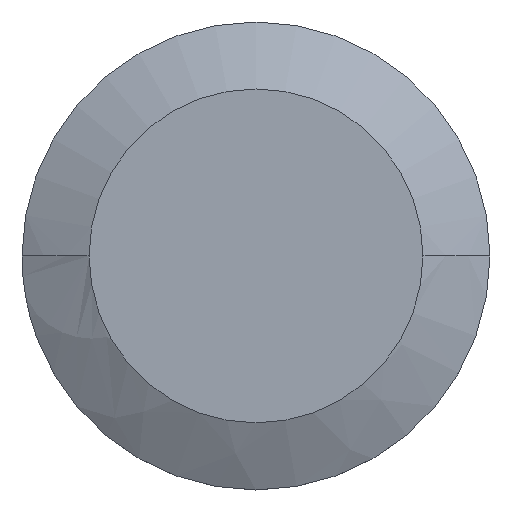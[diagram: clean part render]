
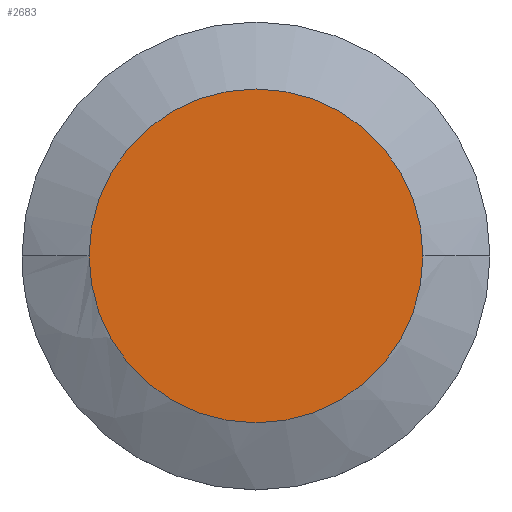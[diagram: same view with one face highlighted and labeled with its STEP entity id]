
A CAD part, top view. The second image highlights one B-rep face of the part: STEP entity #2683.
In plain terms, the highlighted planar face has unit normal (0, 0, 1).
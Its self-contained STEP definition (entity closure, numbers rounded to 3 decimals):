
#131=CARTESIAN_POINT('',(0.,0.,25.3));
#132=DIRECTION('',(0.,0.,1.));
#133=DIRECTION('',(-1.,0.,0.));
#134=AXIS2_PLACEMENT_3D('',#131,#132,#133);
#136=CARTESIAN_POINT('',(0.,0.,25.3));
#137=DIRECTION('',(0.,0.,-1.));
#138=DIRECTION('',(-1.,0.,0.));
#139=AXIS2_PLACEMENT_3D('',#136,#137,#138);
#1975=CARTESIAN_POINT('',(7.848,0.,25.3));
#1976=VERTEX_POINT('',#1975);
#1977=CARTESIAN_POINT('',(-7.848,0.,25.3));
#1978=VERTEX_POINT('',#1977);
#2674=CARTESIAN_POINT('',(0.,0.,25.3));
#2675=DIRECTION('',(0.,0.,-1.));
#2676=DIRECTION('',(1.,0.,0.));
#2677=AXIS2_PLACEMENT_3D('',#2674,#2675,#2676);
#2678=PLANE('',#2677);
#2679=ORIENTED_EDGE('',*,*,#2653,.T.);
#2680=ORIENTED_EDGE('',*,*,#2669,.F.);
#2681=EDGE_LOOP('',(#2679,#2680));
#2682=FACE_OUTER_BOUND('',#2681,.F.);
#2683=ADVANCED_FACE('',(#2682),#2678,.F.);
#135=CIRCLE('',#134,7.848);
#140=CIRCLE('',#139,7.848);
#2653=EDGE_CURVE('',#1978,#1976,#140,.T.);
#2669=EDGE_CURVE('',#1978,#1976,#135,.T.);
